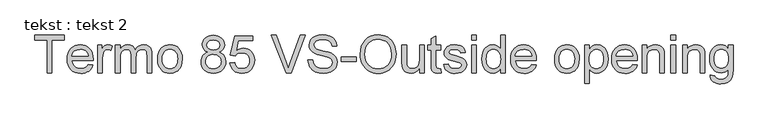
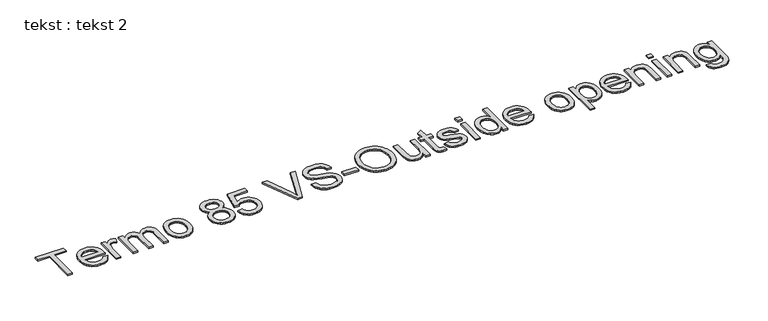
"""IFC4 building model written with IfcOpenShell, lengths in millimetres: proxy geometry, tekst : tekst 2."""

from ifc_helpers import new_model, si_unit, origin, origin_with_axes, place, context, project, spatial, polyline, outline, extrude, source, transform, mapped, element, save


def tekst_tekst_2_988a86f3(model_context):
    return source(origin(), model_context, "Body", "SweptSolid", [
        extrude(outline(polyline([(-1216.6523051, 3.0111201), (-1216.6523051, 442.507477), (-1381.4634389, 442.507477), (-1381.4634389, 505.2926709), (-989.0559774, 505.2926709), (-989.0559774, 442.507477), (-1153.8671112, 442.507477), (-1153.8671112, 3.0111201), (-1216.6523051, 3.0111201)])), origin_with_axes(), (0.0, 0.0, 1.0), 20.0),
        extrude(outline(polyline([(-668.0176229, 112.8852093), (-606.4587024, 105.0370601), (-615.8971749, 80.3813022), (-628.638921, 58.6532719), (-644.683941, 39.8529691), (-664.0322347, 23.9803938), (-686.4845327, 11.3727713), (-711.8415656, 2.3673266), (-740.1033335, -3.0359402), (-771.2698363, -4.8370291), (-810.2270067, -1.7291927), (-844.9382058, 7.5943166), (-875.4034335, 23.1334988), (-901.6226899, 44.8883539), (-922.7069267, 72.2534094), (-937.7670959, 104.6231929), (-946.8031974, 141.9977043), (-949.8152312, 184.3769437), (-946.7725406, 228.1932222), (-937.6444686, 266.8131675), (-922.4310152, 300.2367796), (-901.1321805, 328.4640585), (-874.9819021, 350.8895318), (-845.2141173, 366.907727), (-811.8288262, 376.5186441), (-774.8260289, 379.7222832), (-739.0150159, 376.5263084), (-706.629904, 366.9383839), (-677.6706932, 350.9585097), (-652.1373835, 328.5866859), (-631.2945692, 300.4207206), (-616.4068447, 267.0584222), (-607.47421, 228.4997905), (-604.4966651, 184.7448257), (-604.8645471, 167.822254), (-887.0300374, 167.822254), (-883.3933706, 142.7679572), (-876.1621901, 120.8253291), (-865.336496, 101.9943695), (-850.9162882, 86.2750784), (-833.6986444, 73.8820537), (-814.4806423, 65.0298931), (-793.2622818, 59.7185968), (-770.0435629, 57.9481647), (-736.627615, 61.2284459), (-708.4846424, 71.0692892), (-685.614645, 88.0838315), (-668.0176229, 112.8852093)]), holes=[polyline([(-887.0300374, 230.6074478), (-667.2818589, 230.6074478), (-675.7738017, 263.778141), (-692.420462, 287.5065297), (-709.5423031, 300.3823996), (-729.0247205, 309.5794494), (-750.8677139, 315.0976794), (-775.0712835, 316.9370893), (-817.3930414, 311.0663058), (-835.8063017, 303.7278265), (-852.3878162, 293.4539553), (-866.3021862, 280.7198733), (-876.7140131, 266.0007614), (-883.6232968, 249.2966196), (-887.0300374, 230.6074478)])]), origin_with_axes(), (0.0, 0.0, 1.0), 20.0),
        extrude(outline(polyline([(-541.7114713, 3.0111201), (-541.7114713, 371.874134), (-486.7744266, 371.874134), (-486.7744266, 317.3049713), (-466.4796032, 348.9428229), (-447.7789352, 367.5821773), (-429.0169534, 376.6872567), (-408.538189, 379.7222832), (-377.2682194, 374.8785036), (-345.5077405, 360.3471648), (-366.4770142, 304.0612195), (-388.5499339, 313.7181219), (-410.6228536, 316.9370893), (-429.369507, 313.8407492), (-446.1234662, 304.5517288), (-459.6584579, 289.7751354), (-468.7482089, 270.216076), (-476.3817603, 235.1446591), (-478.9262774, 196.8849316), (-478.9262774, 3.0111201), (-541.7114713, 3.0111201)])), origin_with_axes(), (0.0, 0.0, 1.0), 20.0),
        extrude(outline(polyline([(-306.2669943, 3.0111201), (-306.2669943, 371.874134), (-243.4818005, 371.874134), (-243.4818005, 311.1736048), (-224.5971914, 339.0559943), (-200.3169797, 360.8989878), (-171.4688999, 375.0164593), (-138.8806865, 379.7222832), (-103.9625538, 374.9244888), (-75.9728654, 360.5311058), (-55.0649053, 337.4924958), (-41.3919578, 306.7590208), (-18.506632, 338.6804481), (7.5976612, 361.4814676), (36.9209219, 375.1620793), (69.4631501, 379.7222832), (94.597921, 377.8253916), (116.6593444, 372.134717), (135.6474203, 362.6502593), (151.5621486, 349.3720186), (164.1429465, 332.1467106), (173.1292306, 310.8210512), (178.5210011, 285.3950404), (180.3182579, 255.8686781), (180.3182579, 3.0111201), (117.5330641, 3.0111201), (117.5330641, 228.8906652), (116.0768645, 260.20662), (111.7082658, 281.3138495), (103.5228914, 295.7685462), (90.6163648, 307.1269028), (74.0156897, 314.4845427), (54.7478703, 316.9370893), (36.9554108, 315.3659267), (20.7341141, 310.6524386), (6.0839801, 302.7966252), (-6.9949913, 291.7984863), (-17.7517075, 277.3361254), (-25.4350763, 259.0876456), (-30.0450975, 237.0530469), (-31.5817713, 211.2323294), (-31.5817713, 3.0111201), (-94.3669651, 3.0111201), (-94.3669651, 235.8804231), (-97.9997998, 271.3810356), (-108.8983039, 296.7035796), (-117.3251009, 305.5557401), (-128.0741529, 311.8787119), (-156.5390223, 316.9370893), (-180.7272635, 313.5648377), (-203.014781, 303.4480829), (-221.4088808, 286.8320794), (-233.9168686, 263.962082), (-241.0905675, 232.23226), (-243.4818005, 189.0367824), (-243.4818005, 3.0111201), (-306.2669943, 3.0111201)])), origin_with_axes(), (0.0, 0.0, 1.0), 20.0),
        extrude(outline(polyline([(258.7997502, 187.442627), (262.1949945, 235.213637), (272.3807272, 276.3780994), (289.3569485, 310.9360143), (313.1236582, 338.8873817), (337.0513163, 356.7526511), (363.4621779, 369.5135578), (392.3562429, 377.1701018), (423.7335114, 379.7222832), (458.3719005, 376.6144467), (489.6916875, 367.2909374), (517.6928722, 351.7517552), (542.3754549, 329.9969002), (562.5208262, 302.7621362), (576.9103772, 270.7832274), (585.5441077, 234.0601736), (588.4220179, 192.592975), (583.3329837, 129.1639876), (576.9716908, 103.1286723), (568.0658809, 80.8794758), (556.7266848, 61.6614736), (543.0652336, 44.7197413), (527.0815273, 30.0542789), (508.775566, 17.6650863), (468.0479634, 0.7884997), (423.7335114, -4.8370291), (388.5892846, -1.740689), (356.9782577, 7.5483314), (328.9004308, 23.030032), (304.355804, 44.7044129), (284.4250305, 72.203592), (270.1887637, 105.1596875), (261.6470036, 143.5726991), (258.7997502, 187.442627)]), holes=[polyline([(321.5849441, 187.5652544), (323.4013614, 157.111523), (328.8506135, 130.7428145), (337.9327002, 108.4591291), (350.6476217, 90.2604666), (366.1139939, 76.1238346), (383.4504329, 66.0262402), (402.6569388, 59.9676836), (423.7335114, 57.9481647), (444.7027851, 59.9791799), (463.8326489, 66.0722255), (481.1231027, 76.2273014), (496.5741465, 90.4444076), (509.2890679, 108.823179), (518.3711547, 131.4632501), (523.8204067, 158.364621), (525.6368241, 189.5272917), (523.8089104, 219.0153329), (518.3251694, 244.6942625), (509.1856011, 266.5640807), (496.3902055, 284.6247874), (480.8816801, 298.7614195), (463.6027226, 308.8590139), (444.5533331, 314.9175705), (423.7335114, 316.9370893), (402.6569388, 314.9252347), (383.4504329, 308.8896707), (366.1139939, 298.8303974), (350.6476217, 284.7474148), (337.9327002, 266.6024018), (328.8506135, 244.3570374), (323.4013614, 218.0113216), (321.5849441, 187.5652544)])]), origin_with_axes(), (0.0, 0.0, 1.0), 20.0),
        extrude(outline(polyline([(931.0427828, 279.6583805), (897.4275655, 296.2130703), (873.8371325, 318.653872), (859.9036019, 346.5209331), (855.2590918, 379.3544012), (857.7882805, 404.9605209), (865.3758466, 428.4359907), (878.0217902, 449.7808106), (895.7261112, 468.9949807), (917.6380826, 484.8752201), (942.9069771, 496.2182483), (971.5327949, 503.0240652), (1003.5155358, 505.2926709), (1035.6515609, 502.9704158), (1064.4919765, 496.0036505), (1090.0367826, 484.392375), (1112.2859791, 468.1365894), (1130.3121968, 448.5468731), (1143.1880666, 426.9338059), (1150.9135885, 403.2973877), (1153.4887625, 377.6376185), (1148.905566, 345.8618112), (1135.1559764, 318.469931), (1112.0867096, 296.167085), (1079.5444815, 279.6583805), (1100.1803621, 270.87903), (1118.1874194, 259.7467675), (1133.5656532, 246.2615931), (1146.3150636, 230.4235068), (1156.3206875, 212.5850621), (1163.4675616, 193.0988127), (1169.185061, 149.1828995), (1166.3493039, 117.8669447), (1157.8420328, 89.1568207), (1143.6632476, 63.0525274), (1123.8129482, 39.554065), (1099.3334671, 20.1329613), (1071.2671366, 6.2607444), (1039.6139566, -2.0625857), (1004.3739271, -4.8370291), (969.1338977, -2.0510894), (937.4807177, 6.3067297), (909.4143871, 20.2364281), (884.934906, 39.738006), (865.0846067, 63.4012489), (850.9058215, 89.8159426), (842.3985503, 118.982087), (839.5627933, 150.8996822), (841.0496497, 174.7200414), (845.5102189, 196.5170496), (852.9445009, 216.2907068), (863.3524957, 234.0410131), (876.504277, 249.4460716), (892.1699186, 262.1839857), (910.3494205, 272.2547553), (931.0427828, 279.6583805)]), holes=[polyline([(918.0442856, 377.5149912), (923.6085008, 350.1077826), (940.3011463, 328.2188039), (952.6980031, 319.8494885), (967.6317129, 313.871406), (1005.1096911, 309.0889401), (1041.7139496, 313.8407492), (1056.3832442, 319.7805106), (1068.630649, 328.0961765), (1085.1853387, 349.2493913), (1090.7035687, 374.6945626), (1085.0013977, 401.1054242), (1067.894885, 422.9484176), (1055.3715687, 431.5055061), (1040.6103037, 437.6177122), (1004.3739271, 442.507477), (967.9076244, 437.7250111), (953.134863, 431.7469287), (940.6690283, 423.3776133), (923.7004713, 402.3470259), (918.0442856, 377.5149912)]), polyline([(902.3479871, 153.1069742), (904.9691464, 129.0873456), (912.832624, 105.8341378), (927.3486344, 85.5546428), (949.9273918, 70.4561526), (976.9667185, 61.0751617), (1004.8644365, 57.9481647), (1027.5658212, 59.5921374), (1047.6000616, 64.5240554), (1064.9671574, 72.7439187), (1079.6671088, 84.2517274), (1091.3626906, 98.296389), (1099.7166776, 114.1268111), (1104.7290697, 131.7429937), (1106.3998671, 151.1449368), (1104.6754203, 170.8572804), (1099.5020797, 188.7915277), (1090.8798455, 204.9476786), (1078.8087175, 219.3257333), (1063.7102273, 231.128614), (1046.0059063, 239.559243), (1025.6957544, 244.6176205), (1002.7797718, 246.3037463), (980.4117801, 244.6406131), (960.641955, 239.6512135), (943.4702964, 231.3355476), (928.8968045, 219.6936153), (917.2816969, 205.5531511), (908.9851915, 189.7418895), (904.0072882, 172.2598305), (902.3479871, 153.1069742)])]), origin_with_axes(), (0.0, 0.0, 1.0), 20.0),
        extrude(outline(polyline([(1224.1221056, 136.429657), (1286.9072994, 144.2778063), (1298.4342686, 106.5852302), (1307.4167207, 91.7511551), (1318.545151, 79.5918888), (1331.7965671, 70.1227595), (1347.1479761, 63.3590957), (1384.1507735, 57.9481647), (1408.0631032, 59.8297279), (1429.1550042, 65.4744172), (1447.4264767, 74.8822328), (1462.8775205, 88.0531747), (1475.1632463, 104.3357851), (1483.9387647, 123.0786063), (1489.2040757, 144.2816384), (1490.9591794, 167.9448813), (1489.3152068, 190.3090409), (1484.3832888, 210.1899971), (1476.1634254, 227.5877498), (1464.6556168, 242.502299), (1449.8215417, 254.466128), (1431.6228793, 263.0117202), (1410.0596294, 268.1390755), (1385.1317921, 269.848194), (1354.6742286, 267.1197358), (1330.0108065, 258.9343614), (1310.3137914, 246.3957168), (1294.7554487, 230.6074478), (1231.9702548, 238.455597), (1286.9072994, 497.4445216), (1530.1999256, 497.4445216), (1530.1999256, 434.6593278), (1337.6750148, 434.6593278), (1310.8196291, 296.3356976), (1332.9768551, 312.2159371), (1355.6705757, 323.5589653), (1378.9007908, 330.3647822), (1402.6675006, 332.6333878), (1433.2438593, 329.8206234), (1461.3293504, 321.3823301), (1486.9239738, 307.318508), (1510.0277295, 287.6291571), (1529.1537612, 263.517558), (1542.8152123, 236.1869914), (1551.012083, 205.6374574), (1553.7443733, 171.8689559), (1551.2841624, 139.3420562), (1543.9035299, 109.0837621), (1531.6024757, 81.0940736), (1514.3809998, 55.3729908), (1488.292035, 29.0311071), (1457.8497999, 10.2154759), (1423.0542945, -1.0739029), (1383.9055188, -4.8370291), (1351.5050785, -2.4189714), (1322.2392994, 4.8352017), (1296.1081814, 16.9254902), (1273.1117246, 33.8518941), (1253.9780288, 54.7713504), (1239.4351936, 78.8407964), (1229.4832192, 106.0602319), (1224.1221056, 136.429657)])), origin_with_axes(), (0.0, 0.0, 1.0), 20.0),
        extrude(outline(polyline([(1976.8086677, 3.0111201), (1776.926117, 505.2926709), (1844.1258948, 505.2926709), (1977.9123137, 143.4194149), (2005.012954, 61.8722394), (2031.7457123, 143.4194149), (2165.9000132, 505.2926709), (2233.099791, 505.2926709), (2041.6785262, 3.0111201), (1976.8086677, 3.0111201)])), origin_with_axes(), (0.0, 0.0, 1.0), 20.0),
        extrude(outline(polyline([(2267.9259532, 175.6704032), (2330.7111471, 175.6704032), (2337.9155028, 140.8289126), (2350.9446568, 112.8238957), (2371.270137, 90.5976918), (2400.3634715, 73.0926402), (2435.9253977, 61.7342836), (2475.6566532, 57.9481647), (2510.6360996, 60.8145786), (2541.2622757, 69.4138203), (2566.0789819, 83.0254541), (2583.6300188, 100.9290445), (2594.0686704, 121.484451), (2597.5482209, 143.051533), (2594.9423901, 164.0667919), (2587.1248977, 182.2309654), (2571.2446583, 197.7279945), (2544.4505863, 210.7418201), (2453.0319105, 234.7154634), (2393.02116, 250.5803745), (2354.6234768, 265.6788647), (2323.3688356, 286.8014226), (2301.2192738, 312.3998781), (2288.0215072, 341.9224082), (2283.6222517, 374.8171899), (2289.0638395, 411.590061), (2305.3886031, 445.8797287), (2317.5248768, 461.4074145), (2332.1673466, 474.9424063), (2368.9708746, 496.0343073), (2413.1473708, 508.8641919), (2462.0450194, 513.1408201), (2515.0200267, 508.6649225), (2561.3731581, 495.2372297), (2599.4489446, 473.1336531), (2614.7620326, 458.9318753), (2627.5919172, 442.6301044), (2645.4035371, 405.627307), (2652.4852655, 364.0259847), (2589.7000717, 364.0259847), (2585.5000856, 384.060225), (2578.1731025, 401.4886346), (2567.7191225, 416.3112133), (2554.1381455, 428.5279612), (2537.1772527, 438.0775647), (2516.5835251, 444.89871), (2464.497566, 450.3556263), (2411.1853335, 444.9600237), (2390.8062038, 438.2155204), (2374.6117318, 428.7732159), (2362.2723566, 417.4225235), (2353.4585171, 404.9528567), (2348.1702134, 391.3642155), (2346.4074455, 376.6565999), (2351.4045093, 352.5296724), (2366.3957006, 333.1238971), (2380.1606186, 324.4939987), (2401.8349995, 315.7721297), (2468.9121499, 298.0524803), (2538.1352787, 281.221879), (2580.0125125, 266.537256), (2615.8043649, 243.7592291), (2640.7743553, 215.6469133), (2655.4436499, 182.5068769), (2660.3334148, 144.6456883), (2654.7078859, 105.9414367), (2637.8312994, 69.5364476), (2610.3934339, 38.2051643), (2573.0840682, 14.7220303), (2528.2177932, 0.0527357), (2478.1091998, -4.8370291), (2416.5962645, 0.4359462), (2389.9209878, 7.0271652), (2365.9665049, 16.254872), (2344.5871961, 28.1343947), (2325.6374412, 42.6810619), (2309.1172404, 59.8948736), (2295.0265935, 79.7758298), (2283.6759012, 101.6801369), (2275.3755636, 124.9640015), (2270.125581, 149.6274236), (2267.9259532, 175.6704032)])), origin_with_axes(), (0.0, 0.0, 1.0), 20.0),
        extrude(outline(polyline([(2715.2704594, 152.1259555), (2715.2704594, 214.9111493), (2911.4741901, 214.9111493), (2911.4741901, 152.1259555), (2715.2704594, 152.1259555)])), origin_with_axes(), (0.0, 0.0, 1.0), 20.0),
        extrude(outline(polyline([(2966.4112347, 247.5300196), (2970.5958924, 306.4447883), (2983.1498655, 358.5997253), (3004.073154, 403.9948307), (3033.3657579, 442.6301044), (3069.2725734, 473.4785425), (3110.038497, 495.5131412), (3155.6635286, 508.7339004), (3206.1476683, 513.1408201), (3239.9391624, 511.0714839), (3272.0292022, 504.8634752), (3302.4177879, 494.5167941), (3331.1049193, 480.0314405), (3357.2858546, 461.8442744), (3380.155852, 440.3921556), (3399.7149114, 415.675084), (3415.9630329, 387.6930597), (3428.7316038, 357.0822121), (3437.8520116, 324.4786702), (3443.3242562, 289.8824343), (3445.1483378, 253.2935042), (3443.2284536, 216.221729), (3437.4688012, 181.1579763), (3427.8693803, 148.1022462), (3414.4301912, 117.0545386), (3397.4692984, 88.8349239), (3377.3047665, 64.2634723), (3353.9365956, 43.3401838), (3327.3647857, 26.0650585), (3298.6355011, 12.5453952), (3268.7949064, 2.8884928), (3237.8430014, -2.9056486), (3205.7797863, -4.8370291), (3171.3981481, -2.7025471), (3138.8865768, 3.7008989), (3108.2450723, 14.3733088), (3079.4736346, 29.3146828), (3053.3233561, 47.946373), (3030.5453292, 69.6897317), (3011.139554, 94.544759), (2995.1060304, 122.5114549), (2982.5520573, 152.4670128), (2973.5849337, 183.2886262), (2968.2046595, 214.9762951), (2966.4112347, 247.5300196)]), holes=[polyline([(3029.1964286, 246.9168829), (3032.3349219, 205.292568), (3041.7504017, 168.3434201), (3057.442868, 136.0694393), (3079.4123209, 108.4706254), (3106.1182545, 86.3670489), (3136.0201629, 70.5787799), (3169.1180462, 61.1058185), (3205.4119043, 57.9481647), (3242.3265632, 61.1364754), (3275.8153211, 70.7014072), (3305.8781779, 86.6429604), (3332.5151336, 108.9611347), (3354.3236381, 137.1424284), (3369.9011414, 170.6733394), (3379.2476433, 209.5538678), (3382.363144, 253.7840135), (3377.028855, 309.3648516), (3361.0259882, 357.4041088), (3349.127305, 378.2929083), (3334.7684108, 396.6908402), (3317.9493059, 412.5979044), (3298.6699901, 426.0141009), (3277.5282716, 436.6635183), (3255.1219589, 444.2702449), (3231.4510517, 448.8342809), (3206.5155503, 450.3556263), (3171.4824544, 447.4240666), (3138.9785473, 438.6293877), (3109.0038289, 423.9715894), (3081.5582992, 403.4506719), (3058.6499808, 376.0779522), (3042.2868962, 340.8647474), (3032.4690455, 297.8110577), (3029.1964286, 246.9168829)])]), origin_with_axes(), (0.0, 0.0, 1.0), 20.0),
        extrude(outline(polyline([(3759.074307, 3.0111201), (3759.074307, 66.4094506), (3736.3575938, 35.2391157), (3709.900747, 12.9745908), (3679.7037666, -0.3841241), (3645.7666525, -4.8370291), (3615.1864617, -1.7100321), (3586.7215923, 7.6709587), (3562.8399194, 21.7731019), (3546.0093181, 39.0635557), (3534.6816184, 60.0634862), (3527.3086501, 85.2940597), (3523.6298301, 143.6646696), (3523.6298301, 371.874134), (3586.4150239, 371.874134), (3586.4150239, 173.2178566), (3590.2164712, 109.2063894), (3599.3675359, 87.8539053), (3615.0485059, 71.6211122), (3636.217049, 61.3664016), (3661.830833, 57.9481647), (3688.9161449, 61.4430437), (3714.2540173, 71.9276806), (3735.1466489, 88.4363851), (3748.8962385, 110.0034671), (3756.5297899, 139.5413256), (3759.074307, 179.9623598), (3759.074307, 371.874134), (3821.8595009, 371.874134), (3821.8595009, 3.0111201), (3759.074307, 3.0111201)])), origin_with_axes(), (0.0, 0.0, 1.0), 20.0),
        extrude(outline(polyline([(4041.6076793, 55.3729908), (4049.4558285, 1.1717101), (4002.4895605, -4.8370291), (3972.3538937, -2.2311983), (3949.8824352, 5.5862941), (3934.0021957, 17.6344294), (3923.6401862, 32.9321891), (3917.9380153, 59.2050949), (3916.0372916, 104.1786688), (3916.0372916, 309.0889401), (3868.9483962, 309.0889401), (3868.9483962, 371.874134), (3916.0372916, 371.874134), (3916.0372916, 461.5147134), (3978.8224855, 498.4255403), (3978.8224855, 371.874134), (4041.6076793, 371.874134), (4041.6076793, 309.0889401), (3978.8224855, 309.0889401), (3978.8224855, 106.0180788), (3982.1334234, 73.6444632), (3992.863315, 62.1788077), (4014.2617843, 57.9481647), (4041.6076793, 55.3729908)])), origin_with_axes(), (0.0, 0.0, 1.0), 20.0),
        extrude(outline(polyline([(4080.8484255, 112.8852093), (4143.6336193, 120.7333586), (4153.5357763, 93.8779729), (4172.6962969, 74.1349725), (4201.2378084, 61.9948667), (4239.2829381, 57.9481647), (4276.8682152, 61.6576415), (4303.2944052, 72.7860719), (4318.92939, 88.911566), (4324.1410516, 107.6122341), (4318.8987332, 123.6151009), (4303.1717779, 135.8165204), (4238.5471741, 153.7201108), (4181.2495533, 170.290129), (4144.0015013, 184.4382574), (4120.0738432, 199.8739728), (4102.7374042, 220.3067519), (4092.2067821, 244.4336795), (4088.6965747, 270.9518399), (4091.5170033, 295.2780369), (4099.9782892, 317.734167), (4113.3140115, 337.4311822), (4130.7577495, 353.4800342), (4148.0941885, 363.5814606), (4170.672946, 372.058075), (4196.7772392, 377.8062311), (4224.6902856, 379.7222832), (4265.5558439, 376.6412715), (4301.0871132, 367.3982363), (4329.6592815, 352.8975544), (4349.6475366, 334.0436021), (4362.8912884, 309.4414937), (4371.229947, 277.6963432), (4308.4447531, 269.848194), (4300.5199618, 289.6065228), (4284.8389918, 304.4904152), (4261.2485589, 313.8254208), (4229.5953788, 316.9370893), (4193.5429433, 313.9633765), (4169.5079863, 305.0422382), (4155.988323, 292.1663683), (4151.4817685, 277.3284612), (4153.3518353, 267.6715588), (4158.9620358, 259.0569888), (4168.5576245, 251.3621237), (4182.3838561, 245.2001003), (4236.4625094, 231.8337211), (4328.6169492, 202.2805342), (4352.9584746, 188.1477342), (4371.413888, 168.8032726), (4383.0481561, 144.1858358), (4386.9262455, 114.23411), (4382.3737058, 83.2707087), (4368.7160867, 54.1467175), (4346.4745544, 29.1460702), (4316.170275, 10.552701), (4279.5660165, -0.9895966), (4238.4245467, -4.8370291), (4204.6330526, -2.9822907), (4175.1181867, 2.5819245), (4149.879949, 11.8556164), (4128.9183395, 24.8387852), (4111.7964983, 41.470117), (4098.0775656, 61.6882984), (4087.7615413, 85.4933291), (4080.8484255, 112.8852093)])), origin_with_axes(), (0.0, 0.0, 1.0), 20.0),
        extrude(outline(polyline([(4457.5595885, 3.0111201), (4457.5595885, 371.874134), (4520.3447824, 371.874134), (4520.3447824, 3.0111201), (4457.5595885, 3.0111201)])), origin_with_axes(), (0.0, 0.0, 1.0), 20.0),
        extrude(outline(polyline([(4457.5595885, 442.507477), (4457.5595885, 505.2926709), (4520.3447824, 505.2926709), (4520.3447824, 442.507477), (4457.5595885, 442.507477)])), origin_with_axes(), (0.0, 0.0, 1.0), 20.0),
        extrude(outline(polyline([(4842.1189008, 3.0111201), (4842.1189008, 62.2401213), (4823.3339264, 32.893868), (4800.5788922, 11.9322585), (4773.8537981, -0.6447072), (4743.1586441, -4.8370291), (4702.5689973, 1.2330238), (4665.4129158, 19.4431826), (4633.9590052, 48.5211886), (4610.4758712, 87.1947834), (4595.8525619, 133.9004683), (4590.9781254, 187.074745), (4595.4693515, 239.5898999), (4608.9430295, 287.0160204), (4619.044456, 308.1462425), (4631.3838312, 326.6553054), (4645.9611553, 342.543209), (4662.7764282, 355.8099535), (4700.7449158, 373.7442008), (4742.9133895, 379.7222832), (4773.6315361, 375.445655), (4800.79349, 362.6157704), (4823.8167716, 342.9494121), (4842.1189008, 318.1633627), (4842.1189008, 505.2926709), (4904.9040947, 505.2926709), (4904.9040947, 3.0111201), (4842.1189008, 3.0111201)]), holes=[polyline([(4653.7633193, 187.3199997), (4655.5337514, 156.8739325), (4660.8450477, 130.5282167), (4669.6972082, 108.2828523), (4682.0902329, 90.1378393), (4696.889819, 76.0548567), (4712.9616637, 65.9955834), (4730.3057669, 59.9600194), (4748.9221287, 57.9481647), (4767.6266289, 59.8680489), (4784.8672653, 65.6277014), (4800.644038, 75.2271222), (4814.9569468, 88.6663113), (4826.8403017, 106.0525677), (4835.3284123, 127.4931902), (4840.4212787, 152.9881789), (4842.1189008, 182.5375338), (4840.3906219, 214.934142), (4835.205785, 242.7168968), (4826.5643902, 265.8857983), (4814.4664375, 284.4408464), (4799.8392961, 298.6579527), (4783.6103352, 308.8130286), (4765.7795547, 314.9060742), (4746.3469547, 316.9370893), (4727.3627109, 314.9865483), (4710.0186077, 309.1349254), (4694.314645, 299.3822204), (4680.2508229, 285.7284334), (4668.6625401, 267.8746603), (4660.3851952, 245.521997), (4655.4187883, 218.6704435), (4653.7633193, 187.3199997)])]), origin_with_axes(), (0.0, 0.0, 1.0), 20.0),
        extrude(outline(polyline([(5257.335046, 112.8852093), (5318.8939666, 105.0370601), (5309.4554941, 80.3813022), (5296.7137479, 58.6532719), (5280.668728, 39.8529691), (5261.3204343, 23.9803938), (5238.8681363, 11.3727713), (5213.5111034, 2.3673266), (5185.2493355, -3.0359402), (5154.0828327, -4.8370291), (5115.1256623, -1.7291927), (5080.4144632, 7.5943166), (5049.9492355, 23.1334988), (5023.7299791, 44.8883539), (5002.6457423, 72.2534094), (4987.5855731, 104.6231929), (4978.5494716, 141.9977043), (4975.5374377, 184.3769437), (4978.5801284, 228.1932222), (4987.7082004, 266.8131675), (5002.9216538, 300.2367796), (5024.2204884, 328.4640585), (5050.3707669, 350.8895318), (5080.1385517, 366.907727), (5113.5238428, 376.5186441), (5150.5266401, 379.7222832), (5186.3376531, 376.5263084), (5218.722765, 366.9383839), (5247.6819758, 350.9585097), (5273.2152855, 328.5866859), (5294.0580998, 300.4207206), (5308.9458243, 267.0584222), (5317.878459, 228.4997905), (5320.8560039, 184.7448257), (5320.4881219, 167.822254), (5038.3226316, 167.822254), (5041.9592984, 142.7679572), (5049.1904789, 120.8253291), (5060.016173, 101.9943695), (5074.4363808, 86.2750784), (5091.6540246, 73.8820537), (5110.8720267, 65.0298931), (5132.0903872, 59.7185968), (5155.309106, 57.9481647), (5188.7250539, 61.2284459), (5216.8680266, 71.0692892), (5239.7380239, 88.0838315), (5257.335046, 112.8852093)]), holes=[polyline([(5038.3226316, 230.6074478), (5258.07081, 230.6074478), (5249.5788673, 263.778141), (5232.932207, 287.5065297), (5215.8103658, 300.3823996), (5196.3279485, 309.5794494), (5174.484955, 315.0976794), (5150.2813854, 316.9370893), (5107.9596276, 311.0663058), (5089.5463673, 303.7278265), (5072.9648528, 293.4539553), (5059.0504827, 280.7198733), (5048.6386559, 266.0007614), (5041.7293721, 249.2966196), (5038.3226316, 230.6074478)])]), origin_with_axes(), (0.0, 0.0, 1.0), 20.0),
        extrude(outline(polyline([(5564.14863, 187.442627), (5567.5438743, 235.213637), (5577.729607, 276.3780994), (5594.7058282, 310.9360143), (5618.472538, 338.8873817), (5642.4001961, 356.7526511), (5668.8110576, 369.5135578), (5697.7051227, 377.1701018), (5729.0823912, 379.7222832), (5763.7207803, 376.6144467), (5795.0405672, 367.2909374), (5823.041752, 351.7517552), (5847.7243346, 329.9969002), (5867.869706, 302.7621362), (5882.2592569, 270.7832274), (5890.8929875, 234.0601736), (5893.7708977, 192.592975), (5888.6818634, 129.1639876), (5882.3205706, 103.1286723), (5873.4147606, 80.8794758), (5862.0755646, 61.6614736), (5848.4141134, 44.7197413), (5832.4304071, 30.0542789), (5814.1244457, 17.6650863), (5773.3968432, 0.7884997), (5729.0823912, -4.8370291), (5693.9381643, -1.740689), (5662.3271375, 7.5483314), (5634.2493106, 23.030032), (5609.7046838, 44.7044129), (5589.7739102, 72.203592), (5575.5376435, 105.1596875), (5566.9958834, 143.5726991), (5564.14863, 187.442627)]), holes=[polyline([(5626.9338239, 187.5652544), (5628.7502412, 157.111523), (5634.1994933, 130.7428145), (5643.28158, 108.4591291), (5655.9965015, 90.2604666), (5671.4628737, 76.1238346), (5688.7993127, 66.0262402), (5708.0058185, 59.9676836), (5729.0823912, 57.9481647), (5750.0516649, 59.9791799), (5769.1815287, 66.0722255), (5786.4719824, 76.2273014), (5801.9230262, 90.4444076), (5814.6379477, 108.823179), (5823.7200344, 131.4632501), (5829.1692865, 158.364621), (5830.9857039, 189.5272917), (5829.1577902, 219.0153329), (5823.6740492, 244.6942625), (5814.5344809, 266.5640807), (5801.7390852, 284.6247874), (5786.2305599, 298.7614195), (5768.9516024, 308.8590139), (5749.9022129, 314.9175705), (5729.0823912, 316.9370893), (5708.0058185, 314.9252347), (5688.7993127, 308.8896707), (5671.4628737, 298.8303974), (5655.9965015, 284.7474148), (5643.28158, 266.6024018), (5634.1994933, 244.3570374), (5628.7502412, 218.0113216), (5626.9338239, 187.5652544)])]), origin_with_axes(), (0.0, 0.0, 1.0), 20.0),
        extrude(outline(polyline([(5964.4042408, -138.255566), (5964.4042408, 371.874134), (6027.1894346, 371.874134), (6027.1894346, 310.3152134), (6047.668199, 340.6808064), (6070.59951, 362.3705157), (6097.3322684, 375.3843413), (6129.2153746, 379.7222832), (6151.1120175, 378.20477), (6171.6750882, 373.6522303), (6190.9045867, 366.0646641), (6208.8005129, 355.4420715), (6224.9719923, 342.0603639), (6239.0281502, 326.1954529), (6260.7945016, 287.0160204), (6273.9462829, 240.7548595), (6278.33021, 190.2630557), (6273.3791315, 136.5676128), (6258.5258959, 88.543684), (6247.5047645, 67.2678419), (6234.2456842, 48.6284875), (6218.7486552, 32.6256207), (6201.0136773, 19.2592416), (6162.3094258, 1.1870386), (6121.61248, -4.8370291), (6092.7490718, -0.8056556), (6066.9820038, 11.288465), (6044.9244125, 29.544609), (6027.1894346, 52.0620528), (6027.1894346, -138.255566), (5964.4042408, -138.255566)]), holes=[polyline([(6027.1894346, 184.4995711), (6028.8870567, 154.241277), (6033.9799231, 128.2136258), (6042.4680337, 106.4166176), (6054.3513886, 88.8502523), (6068.6566333, 75.330589), (6084.4104133, 65.6736866), (6101.6127287, 59.8795452), (6120.2635794, 57.9481647), (6139.1826774, 59.9485231), (6156.6992253, 65.9495981), (6172.8132231, 75.9513899), (6187.5246708, 89.9538983), (6199.7835719, 108.1563929), (6208.5399298, 130.7581429), (6213.7937446, 157.7591486), (6215.5450161, 189.1594097), (6213.8358977, 219.1571207), (6208.7085424, 245.1387866), (6200.1629502, 267.1044074), (6188.1991212, 285.0539831), (6173.8593876, 299.0028421), (6158.1860817, 308.9663128), (6141.1792037, 314.9443952), (6122.8387534, 316.9370893), (6104.5557846, 314.8179358), (6087.3534692, 308.460475), (6071.2318072, 297.8647072), (6056.1907986, 283.0306321), (6043.5027018, 264.1575193), (6034.4397756, 241.4446382), (6029.0020199, 214.8919888), (6027.1894346, 184.4995711)])]), origin_with_axes(), (0.0, 0.0, 1.0), 20.0),
        extrude(outline(polyline([(6607.2167137, 112.8852093), (6668.7756342, 105.0370601), (6659.3371618, 80.3813022), (6646.5954156, 58.6532719), (6630.5503956, 39.8529691), (6611.202102, 23.9803938), (6588.7498039, 11.3727713), (6563.392771, 2.3673266), (6535.1310031, -3.0359402), (6503.9645004, -4.8370291), (6465.0073299, -1.7291927), (6430.2961308, 7.5943166), (6399.8309031, 23.1334988), (6373.6116467, 44.8883539), (6352.5274099, 72.2534094), (6337.4672407, 104.6231929), (6328.4311392, 141.9977043), (6325.4191054, 184.3769437), (6328.461796, 228.1932222), (6337.589868, 266.8131675), (6352.8033214, 300.2367796), (6374.1021561, 328.4640585), (6400.2524346, 350.8895318), (6430.0202193, 366.907727), (6463.4055104, 376.5186441), (6500.4083077, 379.7222832), (6536.2193207, 376.5263084), (6568.6044326, 366.9383839), (6597.5636434, 350.9585097), (6623.0969531, 328.5866859), (6643.9397674, 300.4207206), (6658.8274919, 267.0584222), (6667.7601266, 228.4997905), (6670.7376715, 184.7448257), (6670.3697895, 167.822254), (6388.2042992, 167.822254), (6391.840966, 142.7679572), (6399.0721465, 120.8253291), (6409.8978406, 101.9943695), (6424.3180484, 86.2750784), (6441.5356922, 73.8820537), (6460.7536943, 65.0298931), (6481.9720548, 59.7185968), (6505.1907737, 57.9481647), (6538.6067216, 61.2284459), (6566.7496942, 71.0692892), (6589.6196916, 88.0838315), (6607.2167137, 112.8852093)]), holes=[polyline([(6388.2042992, 230.6074478), (6607.9524777, 230.6074478), (6599.4605349, 263.778141), (6582.8138747, 287.5065297), (6565.6920335, 300.3823996), (6546.2096161, 309.5794494), (6524.3666227, 315.0976794), (6500.1630531, 316.9370893), (6457.8412952, 311.0663058), (6439.4280349, 303.7278265), (6422.8465204, 293.4539553), (6408.9321504, 280.7198733), (6398.5203235, 266.0007614), (6391.6110398, 249.2966196), (6388.2042992, 230.6074478)])]), origin_with_axes(), (0.0, 0.0, 1.0), 20.0),
        extrude(outline(polyline([(6733.5228654, 3.0111201), (6733.5228654, 371.874134), (6796.3080592, 371.874134), (6796.3080592, 320.3706546), (6818.1203958, 346.3369921), (6844.3166596, 364.884376), (6874.8968504, 376.0128064), (6909.8609684, 379.7222832), (6940.8090412, 376.733242), (6969.1512833, 367.7661183), (6992.7877015, 353.9398867), (7009.6183027, 336.3735214), (7021.037973, 315.1130078), (7028.4415982, 290.204331), (7031.7525361, 229.5038018), (7031.7525361, 3.0111201), (6968.9673423, 3.0111201), (6968.9673423, 221.0425159), (6967.1585891, 253.508102), (6961.7323297, 276.5926972), (6951.7228737, 293.1320586), (6936.164531, 305.9619432), (6916.2222612, 314.1933028), (6893.0610239, 316.9370893), (6873.996306, 315.3965835), (6856.2881528, 310.7750659), (6839.9365646, 303.0725366), (6824.9415412, 292.2889957), (6812.4143928, 277.1981697), (6803.4664297, 256.5737853), (6798.0976518, 230.4158426), (6796.3080592, 198.7243416), (6796.3080592, 3.0111201), (6733.5228654, 3.0111201)])), origin_with_axes(), (0.0, 0.0, 1.0), 20.0),
        extrude(outline(polyline([(7118.0821776, 3.0111201), (7118.0821776, 371.874134), (7180.8673715, 371.874134), (7180.8673715, 3.0111201), (7118.0821776, 3.0111201)])), origin_with_axes(), (0.0, 0.0, 1.0), 20.0),
        extrude(outline(polyline([(7118.0821776, 442.507477), (7118.0821776, 505.2926709), (7180.8673715, 505.2926709), (7180.8673715, 442.507477), (7118.0821776, 442.507477)])), origin_with_axes(), (0.0, 0.0, 1.0), 20.0),
        extrude(outline(polyline([(7275.0451623, 3.0111201), (7275.0451623, 371.874134), (7337.8303561, 371.874134), (7337.8303561, 320.3706546), (7359.6426927, 346.3369921), (7385.8389565, 364.884376), (7416.4191473, 376.0128064), (7451.3832653, 379.7222832), (7482.3313381, 376.733242), (7510.6735802, 367.7661183), (7534.3099984, 353.9398867), (7551.1405996, 336.3735214), (7562.5602699, 315.1130078), (7569.9638951, 290.204331), (7573.274833, 229.5038018), (7573.274833, 3.0111201), (7510.4896392, 3.0111201), (7510.4896392, 221.0425159), (7508.680886, 253.508102), (7503.2546266, 276.5926972), (7493.2451706, 293.1320586), (7477.6868279, 305.9619432), (7457.7445581, 314.1933028), (7434.5833208, 316.9370893), (7415.5186029, 315.3965835), (7397.8104497, 310.7750659), (7381.4588615, 303.0725366), (7366.4638381, 292.2889957), (7353.9366897, 277.1981697), (7344.9887266, 256.5737853), (7339.6199487, 230.4158426), (7337.8303561, 198.7243416), (7337.8303561, 3.0111201), (7275.0451623, 3.0111201)])), origin_with_axes(), (0.0, 0.0, 1.0), 20.0),
        extrude(outline(polyline([(7643.9081761, -28.3814768), (7706.6933699, -36.229626), (7713.6218142, -55.8499991), (7727.049507, -69.3390056), (7753.4450401, -79.8236425), (7787.9952909, -83.3185214), (7824.844804, -79.36379), (7852.2520127, -67.4995956), (7871.2592491, -48.4923592), (7882.9088456, -23.1085015), (7886.3117541, 3.9001683), (7887.2008022, 50.1000155), (7866.3081706, 29.4986238), (7842.9936491, 14.783344), (7817.2572379, 5.9541761), (7789.0989368, 3.0111201), (7754.6751456, 6.4370212), (7724.3670341, 16.7147244), (7698.1746025, 33.8442298), (7676.0978507, 57.8255374), (7658.5813027, 86.5969751), (7646.0694828, 118.0968709), (7638.5623908, 152.3252249), (7636.0600269, 189.282037), (7640.5512529, 239.9731103), (7654.024931, 286.5868247), (7676.0058802, 326.088154), (7690.0083886, 342.0335392), (7706.0189196, 355.4420715), (7723.7807222, 366.0646641), (7743.0370454, 373.6522303), (7763.7878892, 378.20477), (7786.0332536, 379.7222832), (7815.3948353, 376.2887179), (7842.0432873, 365.988022), (7865.9786096, 348.8201956), (7887.2008022, 324.7852386), (7887.2008022, 371.874134), (7949.9859961, 371.874134), (7949.9859961, 53.4109535), (7945.6940395, -20.1194603), (7940.3290937, -47.4691874), (7932.8181696, -68.5419279), (7910.637951, -100.6549604), (7878.432948, -125.2570689), (7858.7474292, -134.3774767), (7836.9082678, -140.8920537), (7786.7690175, -146.1037153), (7756.0087178, -144.2681374), (7728.3524224, -138.7614038), (7703.8001313, -129.5835144), (7682.3518446, -116.7344693), (7665.0269019, -100.19894), (7652.8446429, -79.9615982), (7645.8050676, -56.0224438), (7643.9081761, -28.3814768)]), holes=[polyline([(7698.8452207, 193.5739936), (7700.5198502, 162.5301182), (7705.5437387, 135.985133), (7713.9168862, 113.939038), (7725.6392927, 96.3918332), (7739.8908879, 83.0062936), (7755.8516015, 73.4451938), (7773.5214336, 67.7085339), (7792.9003841, 65.796314), (7812.0877294, 67.6970376), (7829.6732552, 73.3992085), (7845.6569615, 82.9028267), (7860.0388483, 96.2078922), (7871.9222031, 113.5826523), (7880.4103137, 135.2953542), (7885.5031801, 161.345998), (7887.2008022, 191.7345836), (7885.4533628, 220.8547428), (7880.2110443, 246.1657905), (7871.4738469, 267.6677267), (7859.2417706, 285.3605514), (7844.5494834, 299.1752868), (7828.4316535, 309.0429549), (7810.8882809, 314.9635557), (7791.9193655, 316.9370893), (7773.2685147, 314.9942126), (7756.0661994, 309.1655822), (7740.3124193, 299.4511983), (7726.0071747, 285.8510607), (7714.1238198, 268.4264833), (7705.6357092, 247.2387797), (7700.5428428, 222.2879498), (7698.8452207, 193.5739936)])]), origin_with_axes(), (0.0, 0.0, 1.0), 20.0),
    ])


if __name__ == "__main__":
    model = new_model("IFC4")
    model_context = context("Model", 3, world=origin())
    ifc_project = project(units=[si_unit("LENGTHUNIT", "METRE", prefix="MILLI")], contexts=[model_context])
    site = spatial("IfcSite", under=ifc_project)
    building = spatial("IfcBuilding", under=site)
    placement = place(None, origin())
    tekst_tekst_2_shape = tekst_tekst_2_988a86f3(model_context)
    element("IfcBuildingElementProxy", 1, Name="tekst : tekst 2", ObjectType="tekst : tekst 2", at=placement, inside=building, context=model_context, shape_type="MappedRepresentation", body=[
        mapped(tekst_tekst_2_shape, transform((0.0, 0.0, 0.0), x_axis=(1.0, 0.0, 0.0), y_axis=(0.0, 1.0, 0.0), z_axis=(0.0, 0.0, 1.0))),
    ])
    save(model, "model.ifc")
